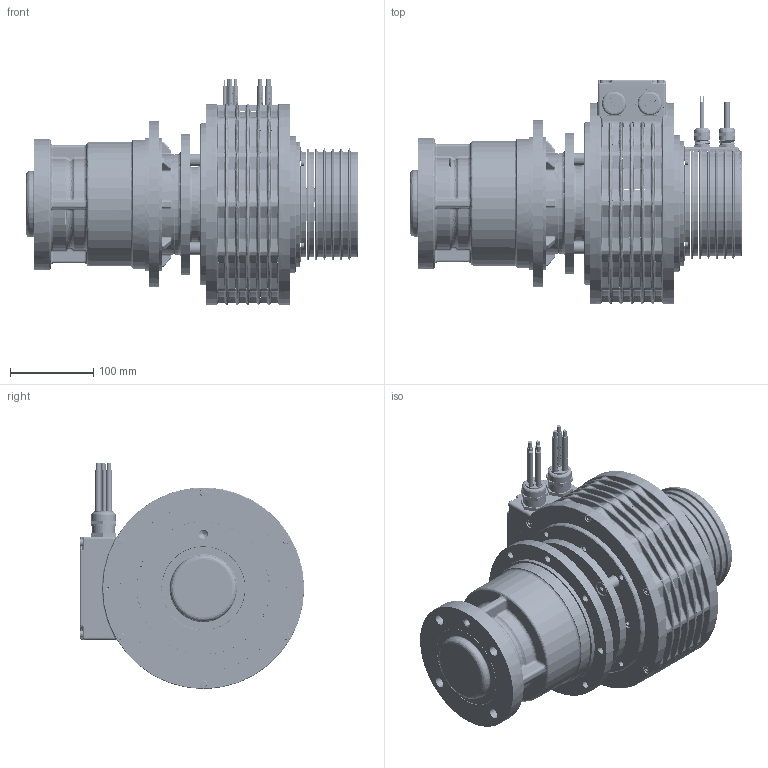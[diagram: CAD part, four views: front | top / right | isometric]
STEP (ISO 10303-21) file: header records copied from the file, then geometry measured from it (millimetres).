
FILE_DESCRIPTION (( 'STEP AP214' ), '1' );
FILE_NAME ('K-97504000_Motor_TDSG_172_FA~c.STEP', '2025-10-13T13:12:14', ( '' ), ( '' ), 'SwSTEP 2.0', 'SolidWorks 2025', '' );
FILE_SCHEMA (( 'AUTOMOTIVE_DESIGN' ));
Products named in the file (1): K-97504000_Motor_TDSG_172_FA~c
Bounding box: 399 x 269.25 x 271.5 mm (x, y, z)
Surface area: 604586.6 mm2 (no closed solid volume)
Topology: 0 solids, 149 shells, 4225 faces, 16267 edges, 11554 vertices
Faces by surface type: bspline 1507, cylinder 1419, plane 762, torus 380, cone 155, sphere 2
Entity records: 247989 total; most frequent: CARTESIAN_POINT 128956, ORIENTED_EDGE 25282, DIRECTION 20963, EDGE_CURVE 16170, VERTEX_POINT 11554, AXIS2_PLACEMENT_3D 8098, B_SPLINE_CURVE_WITH_KNOTS 5771, CIRCLE 5379
